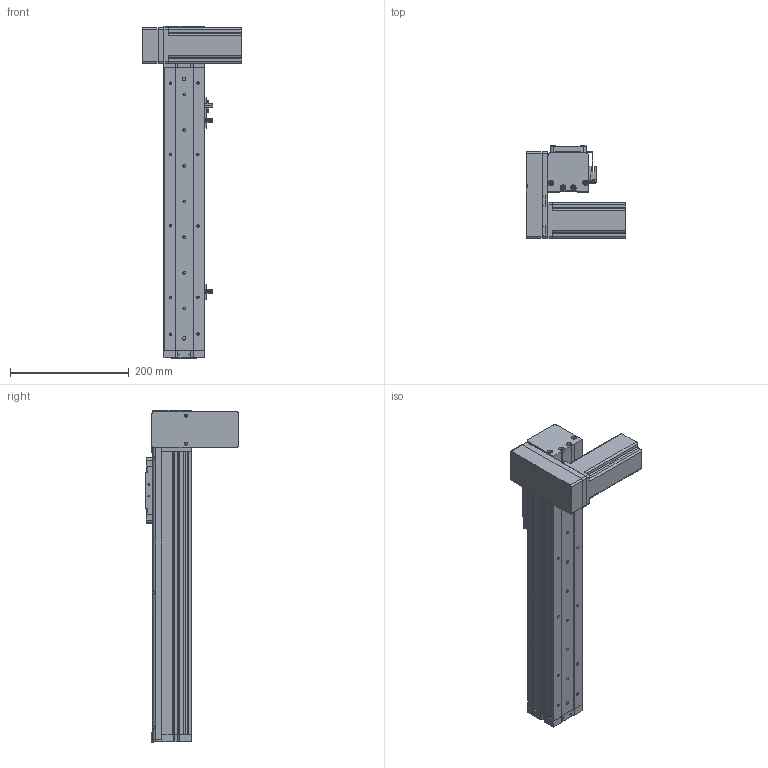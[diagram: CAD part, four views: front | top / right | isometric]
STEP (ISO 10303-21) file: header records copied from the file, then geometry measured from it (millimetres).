
FILE_DESCRIPTION (( 'STEP AP214' ), '1' );
FILE_NAME ('KSD68BS-S300-MRD-CR.STEP', '2019-08-28T01:51:03', ( '微软用户' ), ( '微软中国' ), 'SwSTEP 2.0', 'SolidWorks 2014', '' );
FILE_SCHEMA (( 'AUTOMOTIVE_DESIGN' ));
Length unit declared in the file: millimetre
Products named in the file (14): U倰嫖萇EEㄜSX672; 台达ECMA－C20604AS伺服电机（400W); KSD68BS 300行程底板全封闭; KSD68BS-S300-MRD-CR; 68宽单导轨全封闭丝杆传动安装板1防护罩; KSD68BS 300行程侧板全封闭; 68宽单导轨全封闭同步带端板; KSD68BS 300行程盖板全封闭; 68单导轨全封闭同步带电机座右; 68遵裔啣揤啣1; 68单导轨全封闭同步带安装板; 悵誘欶奻狟殏; 68宽马达安装板连板上折同步带; 感应片68宽全封闭
Assembly tree (17 placements, depth 2):
  KSD68BS-S300-MRD-CR
    KSD68BS 300行程底板全封闭
    台达ECMA－C20604AS伺服电机（400W)
    U倰嫖萇EEㄜSX672  x3
    感应片68宽全封闭
    68宽马达安装板连板上折同步带
    悵誘欶奻狟殏
    68单导轨全封闭同步带安装板
    68单导轨全封闭同步带电机座右
    68宽单导轨全封闭同步带端板
    KSD68BS 300行程侧板全封闭  x2
    68宽单导轨全封闭丝杆传动安装板1防护罩
    68遵裔啣揤啣1  x2
    KSD68BS 300行程盖板全封闭
Bounding box: 167.2 x 155.5 x 558.1 mm (x, y, z)
Volume: 1594582 mm3; surface area: 526775.3 mm2
Topology: 18 solids, 18 shells, 1370 faces, 3851 edges, 2477 vertices
Faces by surface type: plane 623, cylinder 615, cone 132
Entity records: 42242 total; most frequent: CARTESIAN_POINT 7055, DIRECTION 6407, ORIENTED_EDGE 6138, EDGE_CURVE 3069, AXIS2_PLACEMENT_3D 2275, VERTEX_POINT 2015, VECTOR 1857, LINE 1857
